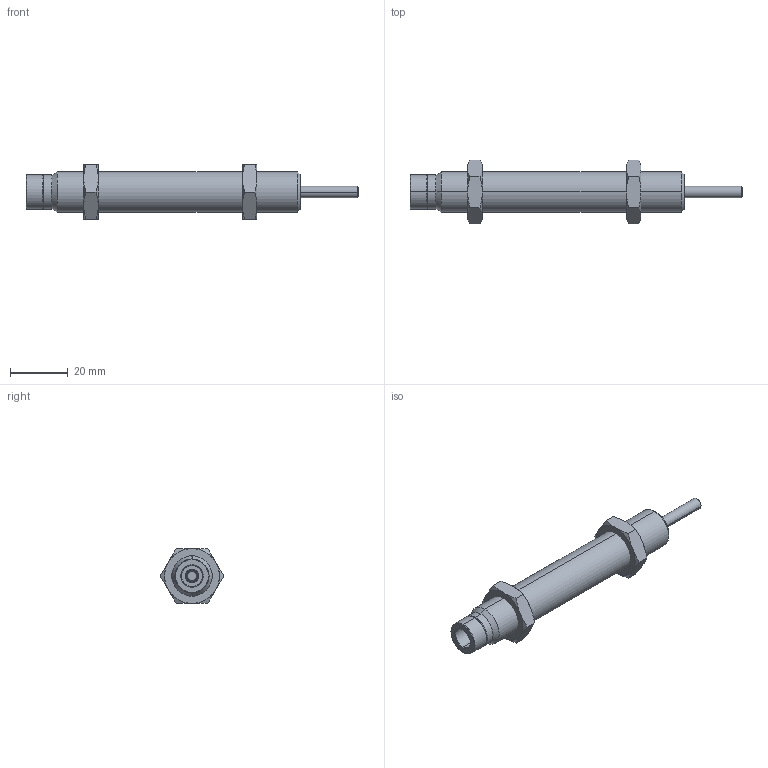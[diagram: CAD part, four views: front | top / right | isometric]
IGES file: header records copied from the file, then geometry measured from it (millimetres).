
Start section: SolidWorks IGES file using analytic representation for surfaces
Global section: file name: D:\IGS跡宒\AC1420-N.IGS,1; native system: 5HSolidWorks 2013; preprocessor: SolidWorks 2013; author: Administrator; date: 160406.151910; units: inch
Bounding box: 115 x 21.94 x 19 mm (x, y, z)
Surface area: 6786.3 mm2 (no closed solid volume)
Topology: 0 solids, 0 shells, 85 faces, 1312 edges, 1312 vertices
Faces by surface type: revolution 62, bspline 23
